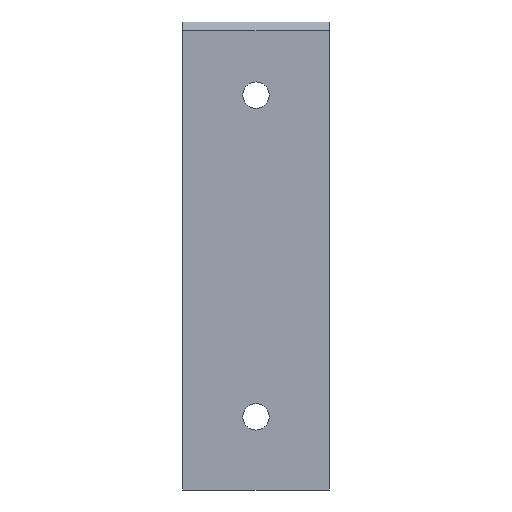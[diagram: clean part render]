
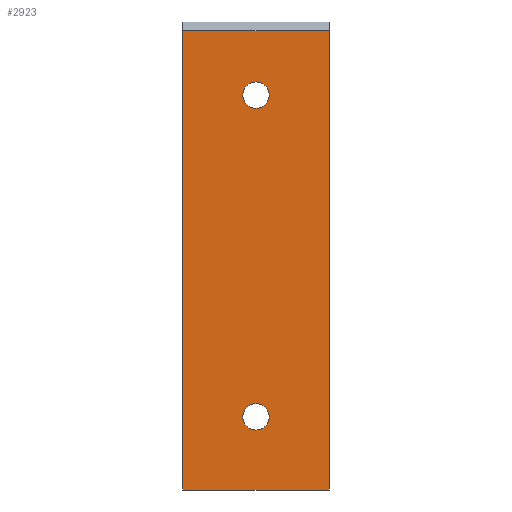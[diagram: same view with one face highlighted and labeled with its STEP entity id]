
A CAD part, front view. The second image highlights one B-rep face of the part: STEP entity #2923.
In plain terms, the highlighted planar face has unit normal (0, -1, 0).
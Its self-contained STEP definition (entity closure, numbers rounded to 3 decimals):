
#69 = EDGE_CURVE ( 'NONE', #3736, #3828, #1707, .T. ) ;
#278 = CARTESIAN_POINT ( 'NONE',  ( 25., 0., 135. ) ) ;
#306 = PLANE ( 'NONE',  #2430 ) ;
#326 = DIRECTION ( 'NONE',  ( 1., 0., 0. ) ) ;
#395 = VERTEX_POINT ( 'NONE', #1207 ) ;
#411 = CIRCLE ( 'NONE', #1212, 4.5 ) ;
#447 = DIRECTION ( 'NONE',  ( 0., -1., 0. ) ) ;
#474 = CARTESIAN_POINT ( 'NONE',  ( 29.5, 0., 25. ) ) ;
#488 = CIRCLE ( 'NONE', #1784, 4.5 ) ;
#518 = EDGE_LOOP ( 'NONE', ( #3433, #871 ) ) ;
#537 = CARTESIAN_POINT ( 'NONE',  ( 0., 0., 160. ) ) ;
#575 = DIRECTION ( 'NONE',  ( 0., -1., 0. ) ) ;
#591 = DIRECTION ( 'NONE',  ( 0., 0., -1. ) ) ;
#592 = FACE_BOUND ( 'NONE', #604, .T. ) ;
#602 = LINE ( 'NONE', #1071, #2203 ) ;
#604 = EDGE_LOOP ( 'NONE', ( #1568, #2938 ) ) ;
#626 = DIRECTION ( 'NONE',  ( 1., 0., 0. ) ) ;
#658 = CARTESIAN_POINT ( 'NONE',  ( 29.5, 0., 135. ) ) ;
#736 = CARTESIAN_POINT ( 'NONE',  ( 20.5, 0., 25. ) ) ;
#871 = ORIENTED_EDGE ( 'NONE', *, *, #1755, .F. ) ;
#873 = VERTEX_POINT ( 'NONE', #2983 ) ;
#1071 = CARTESIAN_POINT ( 'NONE',  ( 25., 0., 0. ) ) ;
#1160 = VECTOR ( 'NONE', #2932, 1000. ) ;
#1166 = EDGE_CURVE ( 'NONE', #3736, #873, #1857, .T. ) ;
#1198 = VERTEX_POINT ( 'NONE', #658 ) ;
#1207 = CARTESIAN_POINT ( 'NONE',  ( 50., 0., 0. ) ) ;
#1212 = AXIS2_PLACEMENT_3D ( 'NONE', #278, #447, #626 ) ;
#1315 = CARTESIAN_POINT ( 'NONE',  ( 0., 0., 78.5 ) ) ;
#1346 = FACE_OUTER_BOUND ( 'NONE', #3633, .T. ) ;
#1364 = CARTESIAN_POINT ( 'NONE',  ( 25., 0., 25. ) ) ;
#1409 = CARTESIAN_POINT ( 'NONE',  ( 50., 0., 78.5 ) ) ;
#1467 = DIRECTION ( 'NONE',  ( 1., 0., 0. ) ) ;
#1469 = ORIENTED_EDGE ( 'NONE', *, *, #1502, .F. ) ;
#1502 = EDGE_CURVE ( 'NONE', #3828, #395, #2769, .T. ) ;
#1511 = ORIENTED_EDGE ( 'NONE', *, *, #1166, .T. ) ;
#1521 = ORIENTED_EDGE ( 'NONE', *, *, #3656, .T. ) ;
#1522 = EDGE_CURVE ( 'NONE', #2458, #1198, #411, .T. ) ;
#1568 = ORIENTED_EDGE ( 'NONE', *, *, #3229, .F. ) ;
#1606 = DIRECTION ( 'NONE',  ( 0., -1., 0. ) ) ;
#1654 = DIRECTION ( 'NONE',  ( 1., 0., 0. ) ) ;
#1658 = DIRECTION ( 'NONE',  ( 0., -1., 0. ) ) ;
#1667 = CARTESIAN_POINT ( 'NONE',  ( 25., 0., 25. ) ) ;
#1684 = CARTESIAN_POINT ( 'NONE',  ( 25., 0., 135. ) ) ;
#1707 = LINE ( 'NONE', #3191, #1160 ) ;
#1755 = EDGE_CURVE ( 'NONE', #3227, #3911, #2144, .T. ) ;
#1784 = AXIS2_PLACEMENT_3D ( 'NONE', #1684, #1606, #1467 ) ;
#1857 = LINE ( 'NONE', #1315, #2570 ) ;
#1977 = AXIS2_PLACEMENT_3D ( 'NONE', #1364, #3833, #2869 ) ;
#2017 = VECTOR ( 'NONE', #3415, 1000. ) ;
#2144 = CIRCLE ( 'NONE', #3620, 4.5 ) ;
#2186 = FACE_BOUND ( 'NONE', #518, .T. ) ;
#2203 = VECTOR ( 'NONE', #326, 1000. ) ;
#2218 = ORIENTED_EDGE ( 'NONE', *, *, #69, .F. ) ;
#2430 = AXIS2_PLACEMENT_3D ( 'NONE', #537, #575, #591 ) ;
#2458 = VERTEX_POINT ( 'NONE', #2688 ) ;
#2570 = VECTOR ( 'NONE', #3510, 1000. ) ;
#2601 = EDGE_CURVE ( 'NONE', #3911, #3227, #3882, .T. ) ;
#2688 = CARTESIAN_POINT ( 'NONE',  ( 20.5, 0., 135. ) ) ;
#2769 = LINE ( 'NONE', #1409, #2017 ) ;
#2869 = DIRECTION ( 'NONE',  ( 1., 0., 0. ) ) ;
#2923 = ADVANCED_FACE ( 'NONE', ( #1346, #2186, #592 ), #306, .T. ) ;
#2932 = DIRECTION ( 'NONE',  ( 1., 0., 0. ) ) ;
#2938 = ORIENTED_EDGE ( 'NONE', *, *, #1522, .F. ) ;
#2983 = CARTESIAN_POINT ( 'NONE',  ( 0., 0., 0. ) ) ;
#3127 = CARTESIAN_POINT ( 'NONE',  ( 0., 0., 157. ) ) ;
#3191 = CARTESIAN_POINT ( 'NONE',  ( 25., 0., 157. ) ) ;
#3227 = VERTEX_POINT ( 'NONE', #474 ) ;
#3229 = EDGE_CURVE ( 'NONE', #1198, #2458, #488, .T. ) ;
#3415 = DIRECTION ( 'NONE',  ( 0., 0., -1. ) ) ;
#3433 = ORIENTED_EDGE ( 'NONE', *, *, #2601, .F. ) ;
#3510 = DIRECTION ( 'NONE',  ( 0., 0., -1. ) ) ;
#3572 = CARTESIAN_POINT ( 'NONE',  ( 50., 0., 157. ) ) ;
#3620 = AXIS2_PLACEMENT_3D ( 'NONE', #1667, #1658, #1654 ) ;
#3633 = EDGE_LOOP ( 'NONE', ( #1511, #1521, #1469, #2218 ) ) ;
#3656 = EDGE_CURVE ( 'NONE', #873, #395, #602, .T. ) ;
#3736 = VERTEX_POINT ( 'NONE', #3127 ) ;
#3828 = VERTEX_POINT ( 'NONE', #3572 ) ;
#3833 = DIRECTION ( 'NONE',  ( 0., -1., 0. ) ) ;
#3882 = CIRCLE ( 'NONE', #1977, 4.5 ) ;
#3911 = VERTEX_POINT ( 'NONE', #736 ) ;
